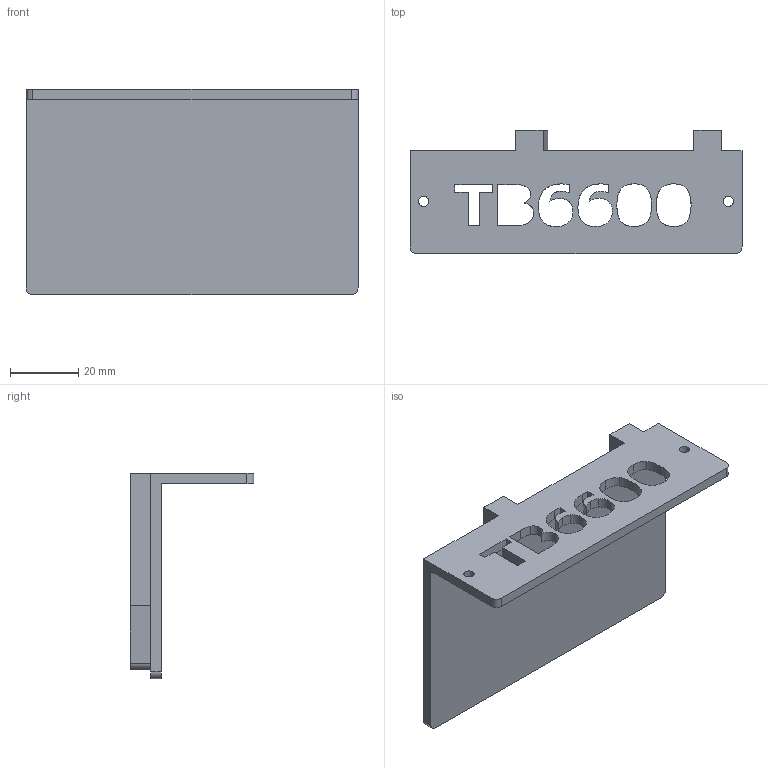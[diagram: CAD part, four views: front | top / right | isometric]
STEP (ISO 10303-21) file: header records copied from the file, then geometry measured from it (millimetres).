
FILE_DESCRIPTION(/* description */ (''),/* implementation_level */ '2;1');
FILE_NAME(/* name */ 'blocca_tn6600.stp',/* time_stamp */ '2024-11-24T19:46:52+01:00',/* author */ ('R5800u'),/* organization */ (''),/* preprocessor_version */ 'ST-DEVELOPER v20',/* originating_system */ 'Autodesk Inventor 2025',/* authorisation */ '');
FILE_SCHEMA (('AUTOMOTIVE_DESIGN { 1 0 10303 214 3 1 1 }'));
Length unit declared in the file: millimetre
Products named in the file (1): blocca_tn6600
Bounding box: 97 x 36.05 x 60 mm (x, y, z)
Volume: 28274.8 mm3; surface area: 19219 mm2
Topology: 1 solids, 1 shells, 96 faces, 270 edges, 180 vertices
Faces by surface type: bspline 44, plane 38, cylinder 14
Full cylindrical faces by diameter (mm): 2.5 x4, 3 x2
Entity records: 3533 total; most frequent: CARTESIAN_POINT 1251, ORIENTED_EDGE 540, DIRECTION 316, EDGE_CURVE 270, VERTEX_POINT 180, LINE 154, VECTOR 154, EDGE_LOOP 116
